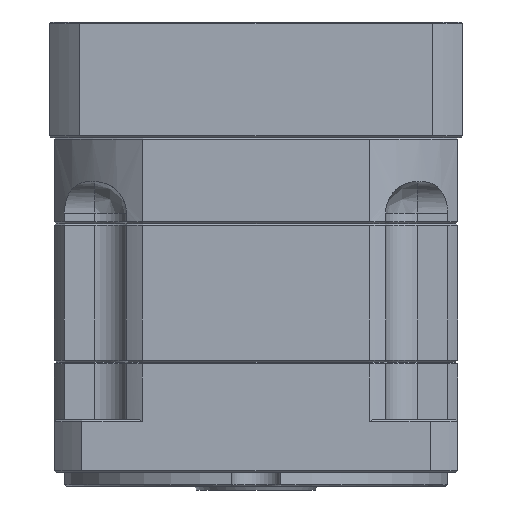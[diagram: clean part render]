
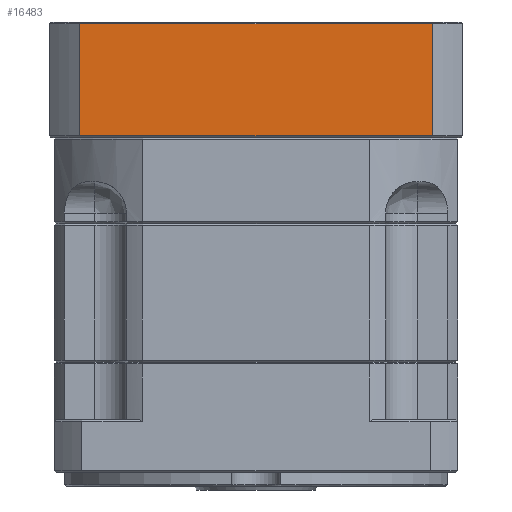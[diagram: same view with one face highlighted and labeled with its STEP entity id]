
A CAD part, front view. The second image highlights one B-rep face of the part: STEP entity #16483.
In plain terms, the highlighted planar face has unit normal (0, -1, 0).
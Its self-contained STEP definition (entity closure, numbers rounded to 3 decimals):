
#4527 = ORIENTED_EDGE ( 'NONE', *, *, #101376, .F. ) ;
#10792 = AXIS2_PLACEMENT_3D ( 'NONE', #19875, #48594, #19460 ) ;
#16483 = ADVANCED_FACE ( 'NONE', ( #74797 ), #130367, .F. ) ;
#17917 = CARTESIAN_POINT ( 'NONE',  ( -85.498, -60.416, 214.002 ) ) ;
#19460 = DIRECTION ( 'NONE',  ( -1., 0., 0. ) ) ;
#19875 = CARTESIAN_POINT ( 'NONE',  ( 15.006, -60.416, 246.502 ) ) ;
#21420 = VECTOR ( 'NONE', #124903, 1000. ) ;
#24989 = CARTESIAN_POINT ( 'NONE',  ( 15.006, -60.416, 246.002 ) ) ;
#26357 = VECTOR ( 'NONE', #92365, 1000. ) ;
#30837 = CARTESIAN_POINT ( 'NONE',  ( -85.498, -60.416, 246.002 ) ) ;
#30972 = LINE ( 'NONE', #44474, #21420 ) ;
#31971 = VECTOR ( 'NONE', #64918, 1000. ) ;
#34837 = LINE ( 'NONE', #124616, #97826 ) ;
#44474 = CARTESIAN_POINT ( 'NONE',  ( -85.498, -60.416, 246.502 ) ) ;
#48594 = DIRECTION ( 'NONE',  ( 0., 1., 0. ) ) ;
#56355 = VERTEX_POINT ( 'NONE', #24989 ) ;
#57834 = LINE ( 'NONE', #102046, #26357 ) ;
#58724 = LINE ( 'NONE', #85103, #31971 ) ;
#64320 = DIRECTION ( 'NONE',  ( 1., 0., 0. ) ) ;
#64918 = DIRECTION ( 'NONE',  ( 0., 0., -1. ) ) ;
#65621 = EDGE_LOOP ( 'NONE', ( #116454, #98570, #90436, #4527 ) ) ;
#67374 = VERTEX_POINT ( 'NONE', #107721 ) ;
#70424 = VERTEX_POINT ( 'NONE', #30837 ) ;
#74797 = FACE_OUTER_BOUND ( 'NONE', #65621, .T. ) ;
#85103 = CARTESIAN_POINT ( 'NONE',  ( 15.006, -60.416, 246.502 ) ) ;
#88459 = VERTEX_POINT ( 'NONE', #17917 ) ;
#90436 = ORIENTED_EDGE ( 'NONE', *, *, #114640, .T. ) ;
#92365 = DIRECTION ( 'NONE',  ( 1., 0., 0. ) ) ;
#97826 = VECTOR ( 'NONE', #64320, 1000. ) ;
#98570 = ORIENTED_EDGE ( 'NONE', *, *, #111752, .F. ) ;
#101376 = EDGE_CURVE ( 'NONE', #56355, #67374, #58724, .T. ) ;
#102046 = CARTESIAN_POINT ( 'NONE',  ( 15.006, -60.416, 246.002 ) ) ;
#107180 = EDGE_CURVE ( 'NONE', #70424, #56355, #57834, .T. ) ;
#107721 = CARTESIAN_POINT ( 'NONE',  ( 15.006, -60.416, 214.002 ) ) ;
#111752 = EDGE_CURVE ( 'NONE', #88459, #70424, #30972, .T. ) ;
#114640 = EDGE_CURVE ( 'NONE', #88459, #67374, #34837, .T. ) ;
#116454 = ORIENTED_EDGE ( 'NONE', *, *, #107180, .F. ) ;
#124616 = CARTESIAN_POINT ( 'NONE',  ( 15.006, -60.416, 214.002 ) ) ;
#124903 = DIRECTION ( 'NONE',  ( 0., 0., 1. ) ) ;
#130367 = PLANE ( 'NONE',  #10792 ) ;
